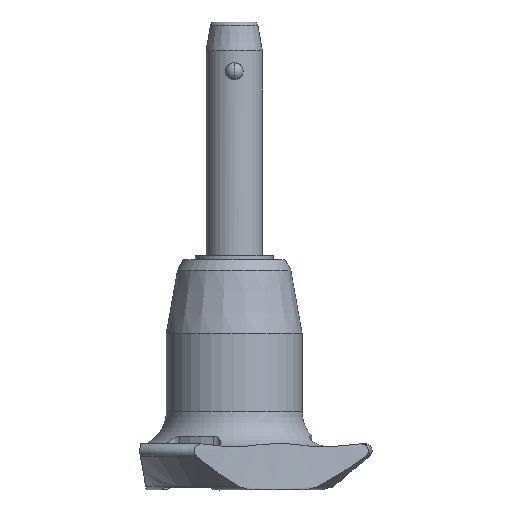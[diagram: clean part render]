
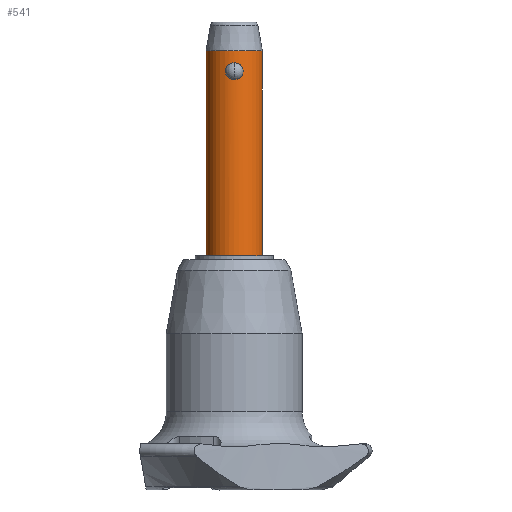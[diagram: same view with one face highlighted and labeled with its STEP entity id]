
A CAD part, front view. The second image highlights one B-rep face of the part: STEP entity #541.
In plain terms, the highlighted cylindrical face has radius 4 mm (diameter 8 mm), a partial arc.
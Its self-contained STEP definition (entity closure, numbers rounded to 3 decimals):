
#12 = CARTESIAN_POINT ( 'NONE',  ( 0., 0., -25. ) ) ;
#17 = CARTESIAN_POINT ( 'NONE',  ( -0.325, -3.99, 2.371 ) ) ;
#179 = CARTESIAN_POINT ( 'NONE',  ( 0.629, -3.953, 2.256 ) ) ;
#183 = CARTESIAN_POINT ( 'NONE',  ( -0.945, -3.887, 2.008 ) ) ;
#194 = CARTESIAN_POINT ( 'NONE',  ( -1.101, -3.846, 0.579 ) ) ;
#210 = CARTESIAN_POINT ( 'NONE',  ( -0.162, -4., 0. ) ) ;
#225 = CARTESIAN_POINT ( 'NONE',  ( 0., -4., 2.4 ) ) ;
#269 = ORIENTED_EDGE ( 'NONE', *, *, #1625, .F. ) ;
#358 = ORIENTED_EDGE ( 'NONE', *, *, #1015, .T. ) ;
#368 = CARTESIAN_POINT ( 'NONE',  ( 0.326, -3.99, 0.029 ) ) ;
#379 = CARTESIAN_POINT ( 'NONE',  ( 1.266, -3.794, 1.035 ) ) ;
#388 = CARTESIAN_POINT ( 'NONE',  ( -1.231, -3.806, 1.527 ) ) ;
#422 = DIRECTION ( 'NONE',  ( 0., 0., -1. ) ) ;
#429 = ORIENTED_EDGE ( 'NONE', *, *, #729, .F. ) ;
#476 = VECTOR ( 'NONE', #560, 1000. ) ;
#484 = FACE_OUTER_BOUND ( 'NONE', #809, .T. ) ;
#541 = ADVANCED_FACE ( 'NONE', ( #484, #722 ), #2216, .T. ) ;
#550 = CARTESIAN_POINT ( 'NONE',  ( 1.258, -3.797, 1.361 ) ) ;
#560 = DIRECTION ( 'NONE',  ( 0., 0., 1. ) ) ;
#597 = EDGE_CURVE ( 'NONE', #2456, #2335, #1215, .T. ) ;
#598 = CARTESIAN_POINT ( 'NONE',  ( 0.627, -3.953, 0.143 ) ) ;
#602 = CARTESIAN_POINT ( 'NONE',  ( -1.092, -3.848, 1.818 ) ) ;
#629 = CARTESIAN_POINT ( 'NONE',  ( 0., -4., 2.4 ) ) ;
#722 = FACE_BOUND ( 'NONE', #1876, .T. ) ;
#729 = EDGE_CURVE ( 'NONE', #1848, #1636, #1295, .T. ) ;
#789 = CARTESIAN_POINT ( 'NONE',  ( 0., -4., 0. ) ) ;
#809 = EDGE_LOOP ( 'NONE', ( #1127, #429, #1076, #358 ) ) ;
#841 = CARTESIAN_POINT ( 'NONE',  ( -0.553, -3.962, 2.285 ) ) ;
#854 = CARTESIAN_POINT ( 'NONE',  ( -0.628, -3.953, 0.143 ) ) ;
#881 = AXIS2_PLACEMENT_3D ( 'NONE', #1052, #422, #1690 ) ;
#916 = CARTESIAN_POINT ( 'NONE',  ( 0., 0., -25. ) ) ;
#937 = EDGE_CURVE ( 'NONE', #1636, #2408, #1243, .T. ) ;
#1007 = VERTEX_POINT ( 'NONE', #1913 ) ;
#1015 = EDGE_CURVE ( 'NONE', #1007, #2408, #2432, .T. ) ;
#1035 = CARTESIAN_POINT ( 'NONE',  ( -1.133, -3.836, 1.747 ) ) ;
#1052 = CARTESIAN_POINT ( 'NONE',  ( 0., 0., 4.1 ) ) ;
#1055 = CARTESIAN_POINT ( 'NONE',  ( -4., 0., 4.1 ) ) ;
#1076 = ORIENTED_EDGE ( 'NONE', *, *, #1897, .T. ) ;
#1079 = CARTESIAN_POINT ( 'NONE',  ( -4., 0., -25. ) ) ;
#1099 = CARTESIAN_POINT ( 'NONE',  ( 0., -4., 0. ) ) ;
#1127 = ORIENTED_EDGE ( 'NONE', *, *, #937, .F. ) ;
#1145 = LINE ( 'NONE', #2209, #1560 ) ;
#1194 = CARTESIAN_POINT ( 'NONE',  ( 1.092, -3.848, 0.582 ) ) ;
#1205 = CARTESIAN_POINT ( 'NONE',  ( -4., 0., -25. ) ) ;
#1211 = CARTESIAN_POINT ( 'NONE',  ( 0.326, -3.99, 2.371 ) ) ;
#1215 = B_SPLINE_CURVE_WITH_KNOTS ( 'NONE', 3,
 ( #789, #1622, #368, #598, #2455, #1635, #1670, #1194, #1235, #2488, #379, #1831, #550, #2079, #1889, #2470, #1412, #2503, #179, #1211, #1250, #2676 ),
 .UNSPECIFIED., .F., .F.,
 ( 4, 2, 2, 2, 2, 2, 2, 2, 2, 2, 4 ),
 ( 0.004, 0.004, 0.005, 0.005, 0.005, 0.006, 0.006, 0.006, 0.007, 0.007, 0.008 ),
 .UNSPECIFIED. ) ;
#1235 = CARTESIAN_POINT ( 'NONE',  ( 1.132, -3.836, 0.651 ) ) ;
#1243 = LINE ( 'NONE', #1205, #476 ) ;
#1250 = CARTESIAN_POINT ( 'NONE',  ( 0.164, -4., 2.4 ) ) ;
#1259 = CARTESIAN_POINT ( 'NONE',  ( -0.827, -3.914, 2.117 ) ) ;
#1272 = CARTESIAN_POINT ( 'NONE',  ( -0.164, -4., 2.4 ) ) ;
#1295 = CIRCLE ( 'NONE', #1644, 4. ) ;
#1352 = DIRECTION ( 'NONE',  ( 0., 0., 1. ) ) ;
#1412 = CARTESIAN_POINT ( 'NONE',  ( 1.005, -3.874, 1.953 ) ) ;
#1452 = CARTESIAN_POINT ( 'NONE',  ( -0.326, -3.99, 0.029 ) ) ;
#1467 = CARTESIAN_POINT ( 'NONE',  ( -0.768, -3.927, 0.228 ) ) ;
#1492 = CARTESIAN_POINT ( 'NONE',  ( -1.258, -3.797, 1.038 ) ) ;
#1560 = VECTOR ( 'NONE', #1968, 1000. ) ;
#1622 = CARTESIAN_POINT ( 'NONE',  ( 0.162, -4., 0. ) ) ;
#1625 = EDGE_CURVE ( 'NONE', #2335, #2456, #1777, .T. ) ;
#1635 = CARTESIAN_POINT ( 'NONE',  ( 0.944, -3.887, 0.391 ) ) ;
#1636 = VERTEX_POINT ( 'NONE', #1079 ) ;
#1644 = AXIS2_PLACEMENT_3D ( 'NONE', #12, #2307, #2543 ) ;
#1661 = CARTESIAN_POINT ( 'NONE',  ( 0., -4., 0. ) ) ;
#1670 = CARTESIAN_POINT ( 'NONE',  ( 0.999, -3.874, 0.452 ) ) ;
#1690 = DIRECTION ( 'NONE',  ( 1., 0., 0. ) ) ;
#1702 = CARTESIAN_POINT ( 'NONE',  ( -0.625, -3.951, 2.25 ) ) ;
#1715 = CARTESIAN_POINT ( 'NONE',  ( -1.005, -3.874, 0.447 ) ) ;
#1777 = B_SPLINE_CURVE_WITH_KNOTS ( 'NONE', 3,
 ( #225, #1272, #17, #841, #1702, #2128, #1259, #183, #2102, #602, #1035, #388, #2144, #2297, #1492, #1924, #1936, #194, #1715, #1467, #854, #1452, #210, #1661 ),
 .UNSPECIFIED., .F., .F.,
 ( 4, 2, 2, 2, 2, 2, 2, 2, 2, 2, 2, 4 ),
 ( 0., 0., 0.001, 0.001, 0.001, 0.001, 0.002, 0.002, 0.002, 0.003, 0.003, 0.004 ),
 .UNSPECIFIED. ) ;
#1831 = CARTESIAN_POINT ( 'NONE',  ( 1.266, -3.794, 1.281 ) ) ;
#1848 = VERTEX_POINT ( 'NONE', #2690 ) ;
#1876 = EDGE_LOOP ( 'NONE', ( #269, #1881 ) ) ;
#1881 = ORIENTED_EDGE ( 'NONE', *, *, #597, .F. ) ;
#1889 = CARTESIAN_POINT ( 'NONE',  ( 1.199, -3.816, 1.599 ) ) ;
#1897 = EDGE_CURVE ( 'NONE', #1848, #1007, #1145, .T. ) ;
#1913 = CARTESIAN_POINT ( 'NONE',  ( 4., 0., 4.1 ) ) ;
#1924 = CARTESIAN_POINT ( 'NONE',  ( -1.224, -3.808, 0.879 ) ) ;
#1936 = CARTESIAN_POINT ( 'NONE',  ( -1.199, -3.816, 0.802 ) ) ;
#1968 = DIRECTION ( 'NONE',  ( 0., 0., 1. ) ) ;
#2079 = CARTESIAN_POINT ( 'NONE',  ( 1.224, -3.808, 1.52 ) ) ;
#2102 = CARTESIAN_POINT ( 'NONE',  ( -0.998, -3.874, 1.949 ) ) ;
#2128 = CARTESIAN_POINT ( 'NONE',  ( -0.762, -3.927, 2.166 ) ) ;
#2144 = CARTESIAN_POINT ( 'NONE',  ( -1.266, -3.794, 1.364 ) ) ;
#2205 = DIRECTION ( 'NONE',  ( 1., 0., 0. ) ) ;
#2209 = CARTESIAN_POINT ( 'NONE',  ( 4., 0., -25. ) ) ;
#2216 = CYLINDRICAL_SURFACE ( 'NONE', #2521, 4. ) ;
#2297 = CARTESIAN_POINT ( 'NONE',  ( -1.266, -3.794, 1.12 ) ) ;
#2307 = DIRECTION ( 'NONE',  ( 0., 0., -1. ) ) ;
#2335 = VERTEX_POINT ( 'NONE', #629 ) ;
#2408 = VERTEX_POINT ( 'NONE', #1055 ) ;
#2432 = CIRCLE ( 'NONE', #881, 4. ) ;
#2455 = CARTESIAN_POINT ( 'NONE',  ( 0.768, -3.927, 0.228 ) ) ;
#2456 = VERTEX_POINT ( 'NONE', #1099 ) ;
#2470 = CARTESIAN_POINT ( 'NONE',  ( 1.101, -3.846, 1.82 ) ) ;
#2488 = CARTESIAN_POINT ( 'NONE',  ( 1.231, -3.806, 0.873 ) ) ;
#2503 = CARTESIAN_POINT ( 'NONE',  ( 0.769, -3.927, 2.171 ) ) ;
#2521 = AXIS2_PLACEMENT_3D ( 'NONE', #916, #1352, #2205 ) ;
#2543 = DIRECTION ( 'NONE',  ( 1., 0., 0. ) ) ;
#2676 = CARTESIAN_POINT ( 'NONE',  ( 0., -4., 2.4 ) ) ;
#2690 = CARTESIAN_POINT ( 'NONE',  ( 4., 0., -25. ) ) ;
